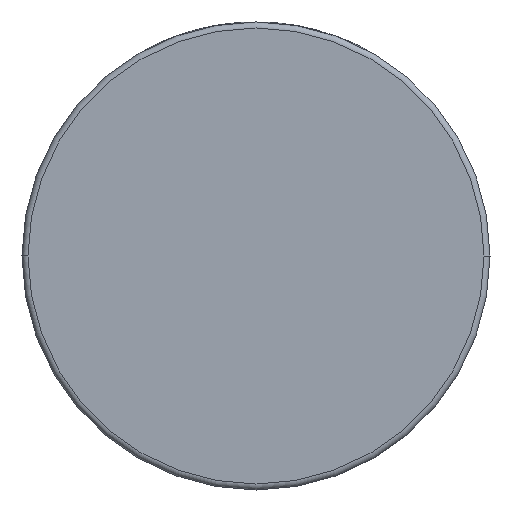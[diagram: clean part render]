
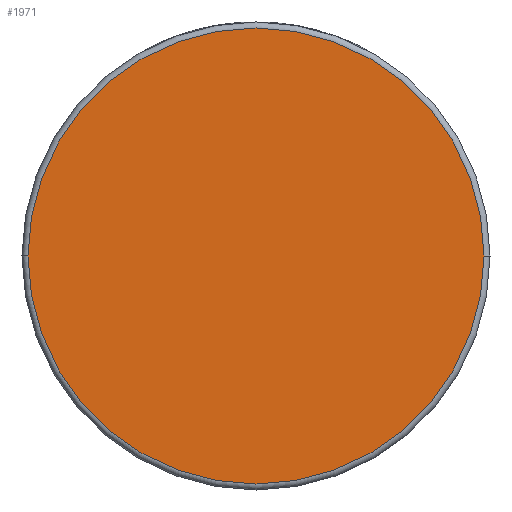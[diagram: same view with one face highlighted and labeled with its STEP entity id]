
A CAD part, front view. The second image highlights one B-rep face of the part: STEP entity #1971.
In plain terms, the highlighted planar face has unit normal (0, -1, 0).
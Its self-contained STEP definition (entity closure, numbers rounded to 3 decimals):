
#245 = AXIS2_PLACEMENT_3D ( 'NONE', #2211, #4272, #1222 ) ;
#725 = EDGE_CURVE ( 'NONE', #2855, #3696, #3876, .T. ) ;
#748 = PLANE ( 'NONE',  #1558 ) ;
#1074 = FACE_OUTER_BOUND ( 'NONE', #3448, .T. ) ;
#1090 = DIRECTION ( 'NONE',  ( 1., 0., 0. ) ) ;
#1222 = DIRECTION ( 'NONE',  ( 1., 0., 0. ) ) ;
#1450 = DIRECTION ( 'NONE',  ( 0., -1., 0. ) ) ;
#1558 = AXIS2_PLACEMENT_3D ( 'NONE', #3424, #1450, #3099 ) ;
#1562 = CIRCLE ( 'NONE', #245, 38. ) ;
#1971 = ADVANCED_FACE ( 'NONE', ( #1074 ), #748, .T. ) ;
#1979 = AXIS2_PLACEMENT_3D ( 'NONE', #3510, #2146, #1090 ) ;
#2146 = DIRECTION ( 'NONE',  ( 0., -1., 0. ) ) ;
#2211 = CARTESIAN_POINT ( 'NONE',  ( 0., -26.5, 0. ) ) ;
#2371 = EDGE_CURVE ( 'NONE', #3696, #2855, #1562, .T. ) ;
#2855 = VERTEX_POINT ( 'NONE', #4036 ) ;
#3099 = DIRECTION ( 'NONE',  ( 1., 0., 0. ) ) ;
#3143 = ORIENTED_EDGE ( 'NONE', *, *, #725, .T. ) ;
#3345 = CARTESIAN_POINT ( 'NONE',  ( -38., -26.5, 0. ) ) ;
#3424 = CARTESIAN_POINT ( 'NONE',  ( 39., -26.5, 0. ) ) ;
#3448 = EDGE_LOOP ( 'NONE', ( #3143, #3880 ) ) ;
#3510 = CARTESIAN_POINT ( 'NONE',  ( 0., -26.5, 0. ) ) ;
#3696 = VERTEX_POINT ( 'NONE', #3345 ) ;
#3876 = CIRCLE ( 'NONE', #1979, 38. ) ;
#3880 = ORIENTED_EDGE ( 'NONE', *, *, #2371, .T. ) ;
#4036 = CARTESIAN_POINT ( 'NONE',  ( 38., -26.5, 0. ) ) ;
#4272 = DIRECTION ( 'NONE',  ( 0., -1., 0. ) ) ;
